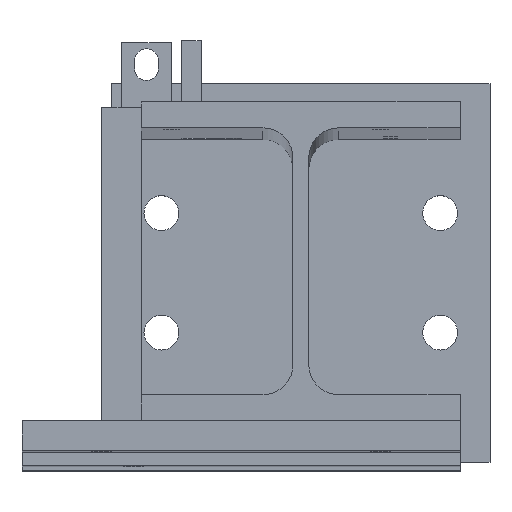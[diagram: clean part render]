
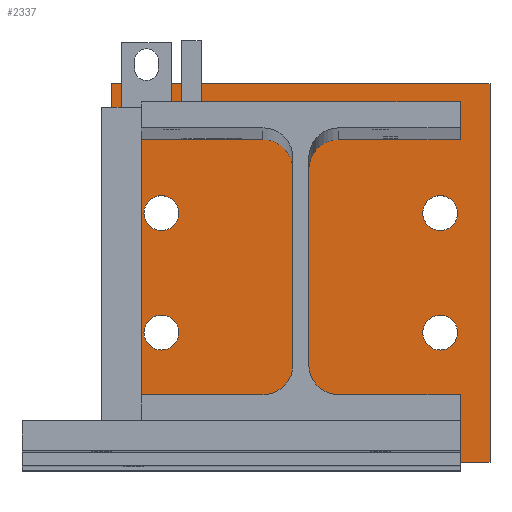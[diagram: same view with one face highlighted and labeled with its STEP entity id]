
A CAD part, top view. The second image highlights one B-rep face of the part: STEP entity #2337.
In plain terms, the highlighted planar face has unit normal (0, 0, 1).
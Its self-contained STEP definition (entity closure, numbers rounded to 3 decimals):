
#97=FACE_BOUND('',#383,.T.);
#98=FACE_BOUND('',#384,.T.);
#99=FACE_BOUND('',#385,.T.);
#100=FACE_BOUND('',#386,.T.);
#187=PLANE('',#2644);
#257=FACE_OUTER_BOUND('',#382,.T.);
#382=EDGE_LOOP('',(#1671,#1672,#1673,#1674));
#383=EDGE_LOOP('',(#1675));
#384=EDGE_LOOP('',(#1676));
#385=EDGE_LOOP('',(#1677));
#386=EDGE_LOOP('',(#1678));
#591=LINE('',#3628,#798);
#594=LINE('',#3634,#801);
#597=LINE('',#3640,#804);
#600=LINE('',#3644,#807);
#798=VECTOR('',#2916,10.);
#801=VECTOR('',#2921,10.);
#804=VECTOR('',#2926,10.);
#807=VECTOR('',#2931,10.);
#999=CIRCLE('',#2629,8.75);
#1001=CIRCLE('',#2632,8.75);
#1003=CIRCLE('',#2635,8.75);
#1005=CIRCLE('',#2638,8.75);
#1108=VERTEX_POINT('',#3598);
#1110=VERTEX_POINT('',#3604);
#1112=VERTEX_POINT('',#3610);
#1114=VERTEX_POINT('',#3616);
#1118=VERTEX_POINT('',#3625);
#1119=VERTEX_POINT('',#3627);
#1121=VERTEX_POINT('',#3633);
#1123=VERTEX_POINT('',#3639);
#1320=EDGE_CURVE('',#1108,#1108,#999,.T.);
#1323=EDGE_CURVE('',#1110,#1110,#1001,.T.);
#1326=EDGE_CURVE('',#1112,#1112,#1003,.T.);
#1329=EDGE_CURVE('',#1114,#1114,#1005,.T.);
#1334=EDGE_CURVE('',#1119,#1118,#591,.T.);
#1337=EDGE_CURVE('',#1121,#1119,#594,.T.);
#1340=EDGE_CURVE('',#1123,#1121,#597,.T.);
#1343=EDGE_CURVE('',#1118,#1123,#600,.T.);
#1671=ORIENTED_EDGE('',*,*,#1343,.T.);
#1672=ORIENTED_EDGE('',*,*,#1340,.T.);
#1673=ORIENTED_EDGE('',*,*,#1337,.T.);
#1674=ORIENTED_EDGE('',*,*,#1334,.T.);
#1675=ORIENTED_EDGE('',*,*,#1320,.T.);
#1676=ORIENTED_EDGE('',*,*,#1323,.T.);
#1677=ORIENTED_EDGE('',*,*,#1326,.T.);
#1678=ORIENTED_EDGE('',*,*,#1329,.T.);
#2337=ADVANCED_FACE('',(#257,#97,#98,#99,#100),#187,.T.);
#2629=AXIS2_PLACEMENT_3D('',#3599,#2886,#2887);
#2632=AXIS2_PLACEMENT_3D('',#3605,#2893,#2894);
#2635=AXIS2_PLACEMENT_3D('',#3611,#2900,#2901);
#2638=AXIS2_PLACEMENT_3D('',#3617,#2907,#2908);
#2644=AXIS2_PLACEMENT_3D('',#3645,#2932,#2933);
#2886=DIRECTION('center_axis',(0.,0.,-1.));
#2887=DIRECTION('ref_axis',(1.,0.,0.));
#2893=DIRECTION('center_axis',(0.,0.,-1.));
#2894=DIRECTION('ref_axis',(1.,0.,0.));
#2900=DIRECTION('center_axis',(0.,0.,-1.));
#2901=DIRECTION('ref_axis',(1.,0.,0.));
#2907=DIRECTION('center_axis',(0.,0.,-1.));
#2908=DIRECTION('ref_axis',(1.,0.,0.));
#2916=DIRECTION('',(0.,-1.,0.));
#2921=DIRECTION('',(-1.,0.,0.));
#2926=DIRECTION('',(0.,1.,0.));
#2931=DIRECTION('',(1.,0.,0.));
#2932=DIRECTION('center_axis',(0.,0.,1.));
#2933=DIRECTION('ref_axis',(1.,0.,0.));
#3598=CARTESIAN_POINT('',(-78.75,30.,15.));
#3599=CARTESIAN_POINT('Origin',(-70.,30.,15.));
#3604=CARTESIAN_POINT('',(61.25,-30.,15.));
#3605=CARTESIAN_POINT('Origin',(70.,-30.,15.));
#3610=CARTESIAN_POINT('',(61.25,30.,15.));
#3611=CARTESIAN_POINT('Origin',(70.,30.,15.));
#3616=CARTESIAN_POINT('',(-78.75,-30.,15.));
#3617=CARTESIAN_POINT('Origin',(-70.,-30.,15.));
#3625=CARTESIAN_POINT('',(-95.,-95.,15.));
#3627=CARTESIAN_POINT('',(-95.,95.,15.));
#3628=CARTESIAN_POINT('',(-95.,95.,15.));
#3633=CARTESIAN_POINT('',(95.,95.,15.));
#3634=CARTESIAN_POINT('',(95.,95.,15.));
#3639=CARTESIAN_POINT('',(95.,-95.,15.));
#3640=CARTESIAN_POINT('',(95.,-95.,15.));
#3644=CARTESIAN_POINT('',(-95.,-95.,15.));
#3645=CARTESIAN_POINT('Origin',(0.,0.,15.));
